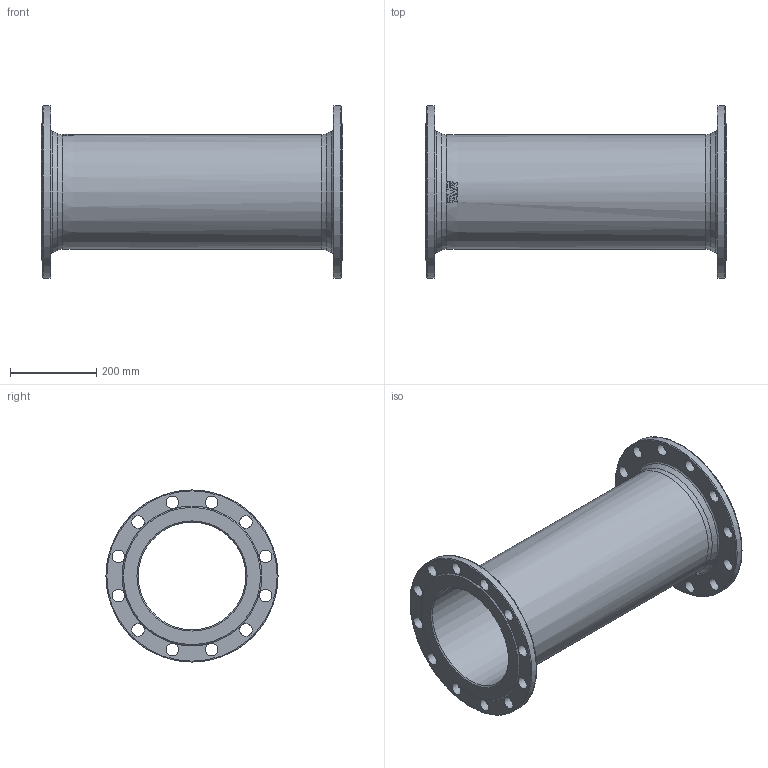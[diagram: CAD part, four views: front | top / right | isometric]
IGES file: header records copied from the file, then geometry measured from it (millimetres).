
Start section: SolidWorks IGES file using analytic representation for surfaces
Global section: file name: \\avksan2\techshare\PBM outline export from Enovia\O_712_5010_DN250_1X_REV01.igs; native system: SolidWorks 2019; preprocessor: SolidWorks 2019; author: pbm; date: 211203.105138; units: millimetre
Bounding box: 700 x 400 x 400 mm (x, y, z)
Surface area: 1431776.7 mm2 (no closed solid volume)
Topology: 0 solids, 0 shells, 89 faces, 438 edges, 395 vertices
Faces by surface type: revolution 46, bspline 43
